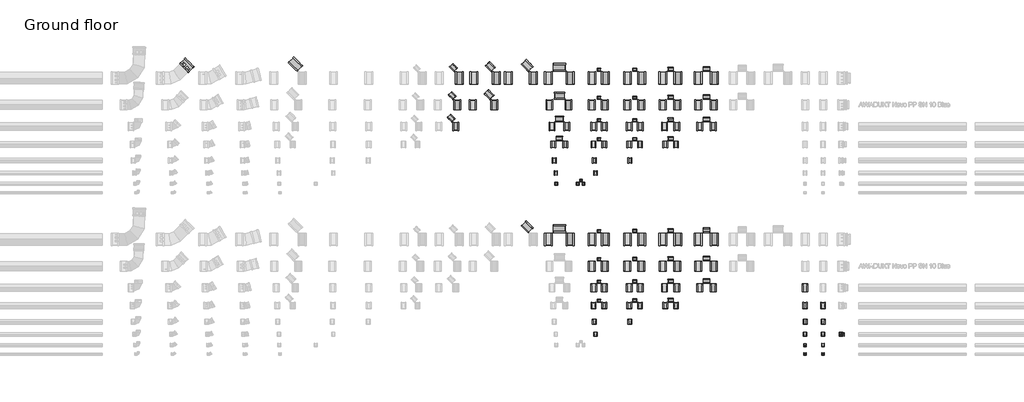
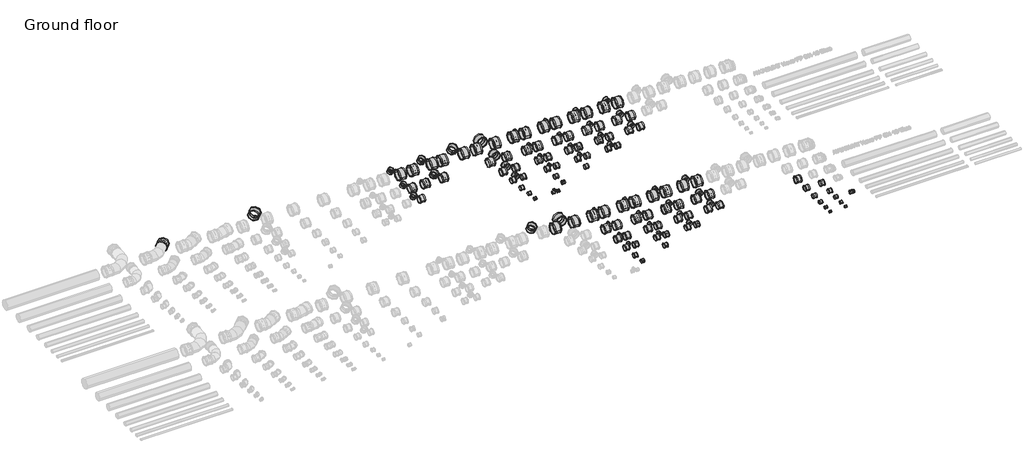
# One storey, part 4 of 14: 148 pipe fittings.
"""IFC4 building model written with IfcOpenShell, lengths in millimetres."""

from ifc_helpers import new_model, si_unit, origin, place, context, project, spatial, transform, mapped, element, save
from components import pipe_fitting_e5a81f0f, pipe_fitting_366f8f33, pipe_fitting_3dc9645f, pipe_fitting_b5a722ff, pipe_fitting_a818c1c7, pipe_fitting_9bc79c39, pipe_fitting_2c23b5e5, pipe_fitting_0ebad727, blue_01f449b1, blue_9a590d53, blue_d79e372c, blue_eca1b971, blue_b5fe305e, blue_81cd2d72, blue_271a95f6

model = new_model("IFC4")

# Units and contexts
model_context = context("Model", 3, world=origin())
ifc_project = project(units=[si_unit("LENGTHUNIT", "METRE", prefix="MILLI")], contexts=[model_context])

# Site, building, storey
site = spatial("IfcSite", under=ifc_project)
building = spatial("IfcBuilding", under=site)
storey = spatial("IfcBuildingStorey", under=building, Name="Ground floor", Elevation=0.0)

# Pipe fittings
placement = place(None, origin())
pipe_fitting_shape = pipe_fitting_e5a81f0f(model_context)
element("IfcPipeFitting", 1, ObjectType="AWADUKT PP Union DSM : Orange No PID", at=placement, inside=storey, context=model_context, shape_type="MappedRepresentation", body=[
    mapped(pipe_fitting_shape, transform((48463.1549417, 13163.1549417, 0.0), x_axis=(0.7071067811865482, 0.7071067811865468, 0.0), y_axis=(-0.7071067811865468, 0.7071067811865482, 0.0), z_axis=(0.0, 0.0, 1.0))),
])
element("IfcPipeFitting", 2, ObjectType="AWADUKT PP Union DSM : Orange No PID", at=placement, inside=storey, context=model_context, shape_type="MappedRepresentation", body=[
    mapped(pipe_fitting_shape, transform((48516.1879503, 14416.1879503, 0.0), x_axis=(0.7071067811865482, 0.7071067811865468, 0.0), y_axis=(-0.7071067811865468, 0.7071067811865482, 0.0), z_axis=(0.0, 0.0, 1.0))),
])
element("IfcPipeFitting", 3, ObjectType="AWADUKT PP Union DSM : Orange No PID", at=placement, inside=storey, context=model_context, shape_type="MappedRepresentation", body=[
    mapped(pipe_fitting_shape, transform((48579.8275606, 15979.8275606, 0.0), x_axis=(0.7071067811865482, 0.7071067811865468, 0.0), y_axis=(-0.7071067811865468, 0.7071067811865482, 0.0), z_axis=(0.0, 0.0, 1.0))),
])
element("IfcPipeFitting", 4, ObjectType="AWADUKT PP Union DSM : Orange No PID", at=placement, inside=storey, context=model_context, shape_type="MappedRepresentation", body=[
    mapped(pipe_fitting_shape, transform((54151.0, 11700.0, 0.0), x_axis=(1.0, 0.0, 0.0), y_axis=(0.0, 1.0, 0.0), z_axis=(0.0, 0.0, 1.0))),
])
element("IfcPipeFitting", 5, ObjectType="AWADUKT PP Union DSM : Orange No PID", at=placement, inside=storey, context=model_context, shape_type="MappedRepresentation", body=[
    mapped(pipe_fitting_shape, transform((56394.0, 11700.0, 0.0), x_axis=(1.0, 0.0, 0.0), y_axis=(0.0, 1.0, 0.0), z_axis=(0.0, 0.0, 1.0))),
])
element("IfcPipeFitting", 6, ObjectType="AWADUKT PP Union DSM : Orange No PID", at=placement, inside=storey, context=model_context, shape_type="MappedRepresentation", body=[
    mapped(pipe_fitting_shape, transform((58394.0, 11700.0, 0.0), x_axis=(1.0, 0.0, 0.0), y_axis=(0.0, 1.0, 0.0), z_axis=(0.0, 0.0, 1.0))),
])
element("IfcPipeFitting", 7, ObjectType="AWADUKT PP Union DSM : Orange No PID", at=placement, inside=storey, context=model_context, shape_type="MappedRepresentation", body=[
    mapped(pipe_fitting_shape, transform((60394.0, 11700.0, 0.0), x_axis=(1.0, 0.0, 0.0), y_axis=(0.0, 1.0, 0.0), z_axis=(0.0, 0.0, 1.0))),
])
element("IfcPipeFitting", 8, ObjectType="AWADUKT PP Union DSM : Orange No PID", at=placement, inside=storey, context=model_context, shape_type="MappedRepresentation", body=[
    mapped(pipe_fitting_shape, transform((54832.0, 11700.0, 0.0), x_axis=(-1.0, 0.0, 0.0), y_axis=(0.0, -1.0, 0.0), z_axis=(0.0, 0.0, 1.0))),
])
element("IfcPipeFitting", 9, ObjectType="AWADUKT PP Union DSM : Orange No PID", at=placement, inside=storey, context=model_context, shape_type="MappedRepresentation", body=[
    mapped(pipe_fitting_shape, transform((54500.0, 12025.0, 0.0), x_axis=(0.0, 1.0, 0.0), y_axis=(-1.0, 0.0, 0.0), z_axis=(0.0, 0.0, 1.0))),
])
element("IfcPipeFitting", 10, ObjectType="AWADUKT PP Union DSM : Orange No PID", at=placement, inside=storey, context=model_context, shape_type="MappedRepresentation", body=[
    mapped(pipe_fitting_shape, transform((57000.0, 11700.0, 0.0), x_axis=(-1.0, 0.0, 0.0), y_axis=(0.0, -1.0, 0.0), z_axis=(0.0, 0.0, 1.0))),
])
element("IfcPipeFitting", 11, ObjectType="AWADUKT PP Union DSM : Orange No PID", at=placement, inside=storey, context=model_context, shape_type="MappedRepresentation", body=[
    mapped(pipe_fitting_shape, transform((59000.0, 11700.0, 0.0), x_axis=(-1.0, 0.0, 0.0), y_axis=(0.0, -1.0, 0.0), z_axis=(0.0, 0.0, 1.0))),
])
element("IfcPipeFitting", 12, ObjectType="AWADUKT PP Union DSM : Orange No PID", at=placement, inside=storey, context=model_context, shape_type="MappedRepresentation", body=[
    mapped(pipe_fitting_shape, transform((61000.0, 11700.0, 0.0), x_axis=(-1.0, 0.0, 0.0), y_axis=(0.0, -1.0, 0.0), z_axis=(0.0, 0.0, 1.0))),
])
element("IfcPipeFitting", 13, ObjectType="AWADUKT PP Union DSM : Orange No PID", at=placement, inside=storey, context=model_context, shape_type="MappedRepresentation", body=[
    mapped(pipe_fitting_shape, transform((62700.0, 13078.0, 0.0), x_axis=(0.0, 1.0, 0.0), y_axis=(-1.0, 0.0, 0.0), z_axis=(0.0, 0.0, 1.0))),
])
element("IfcPipeFitting", 14, ObjectType="AWADUKT PP Union DSM : Orange No PID", at=placement, inside=storey, context=model_context, shape_type="MappedRepresentation", body=[
    mapped(pipe_fitting_shape, transform((62700.0, 14338.0, 0.0), x_axis=(0.0, 1.0, 0.0), y_axis=(-1.0, 0.0, 0.0), z_axis=(0.0, 0.0, 1.0))),
])
element("IfcPipeFitting", 15, ObjectType="AWADUKT PP Union DSM : Orange No PID", at=placement, inside=storey, context=model_context, shape_type="MappedRepresentation", body=[
    mapped(pipe_fitting_shape, transform((62700.0, 15903.0, 0.0), x_axis=(0.0, 1.0, 0.0), y_axis=(-1.0, 0.0, 0.0), z_axis=(0.0, 0.0, 1.0))),
])
pipe_fitting_2_shape = pipe_fitting_366f8f33(model_context)
element("IfcPipeFitting", 16, ObjectType="AWADUKT PP Union DSM : Blue No PID", at=placement, inside=storey, context=model_context, shape_type="MappedRepresentation", body=[
    mapped(pipe_fitting_2_shape, transform((53874.0, 6400.0, 0.0), x_axis=(1.0, 0.0, 0.0), y_axis=(0.0, 1.0, 0.0), z_axis=(0.0, 0.0, 1.0))),
])
element("IfcPipeFitting", 17, ObjectType="AWADUKT PP Union DSM : Blue No PID", at=placement, inside=storey, context=model_context, shape_type="MappedRepresentation", body=[
    mapped(pipe_fitting_2_shape, transform((56309.0, 6400.0, 0.0), x_axis=(1.0, 0.0, 0.0), y_axis=(0.0, 1.0, 0.0), z_axis=(0.0, 0.0, 1.0))),
])
element("IfcPipeFitting", 18, ObjectType="AWADUKT PP Union DSM : Blue No PID", at=placement, inside=storey, context=model_context, shape_type="MappedRepresentation", body=[
    mapped(pipe_fitting_2_shape, transform((58289.0, 6400.0, 0.0), x_axis=(1.0, 0.0, 0.0), y_axis=(0.0, 1.0, 0.0), z_axis=(0.0, 0.0, 1.0))),
])
element("IfcPipeFitting", 19, ObjectType="AWADUKT PP Union DSM : Blue No PID", at=placement, inside=storey, context=model_context, shape_type="MappedRepresentation", body=[
    mapped(pipe_fitting_2_shape, transform((60264.0, 6400.0, 0.0), x_axis=(1.0, 0.0, 0.0), y_axis=(0.0, 1.0, 0.0), z_axis=(0.0, 0.0, 1.0))),
])
element("IfcPipeFitting", 20, ObjectType="AWADUKT PP Union DSM : Blue No PID", at=placement, inside=storey, context=model_context, shape_type="MappedRepresentation", body=[
    mapped(pipe_fitting_2_shape, transform((62232.0, 6400.0, 0.0), x_axis=(1.0, 0.0, 0.0), y_axis=(0.0, 1.0, 0.0), z_axis=(0.0, 0.0, 1.0))),
])
element("IfcPipeFitting", 21, ObjectType="AWADUKT PP Union DSM : Blue No PID", at=placement, inside=storey, context=model_context, shape_type="MappedRepresentation", body=[
    mapped(pipe_fitting_2_shape, transform((55101.0, 6400.0, 0.0), x_axis=(-1.0, 0.0, 0.0), y_axis=(0.0, -1.0, 0.0), z_axis=(0.0, 0.0, 1.0))),
])
element("IfcPipeFitting", 22, ObjectType="AWADUKT PP Union DSM : Blue No PID", at=placement, inside=storey, context=model_context, shape_type="MappedRepresentation", body=[
    mapped(pipe_fitting_2_shape, transform((54500.0, 6990.0, 0.0), x_axis=(0.0, 1.0, 0.0), y_axis=(-1.0, 0.0, 0.0), z_axis=(0.0, 0.0, 1.0))),
])
element("IfcPipeFitting", 23, ObjectType="AWADUKT PP Union DSM : Blue No PID", at=placement, inside=storey, context=model_context, shape_type="MappedRepresentation", body=[
    mapped(pipe_fitting_2_shape, transform((57066.0, 6400.0, 0.0), x_axis=(-1.0, 0.0, 0.0), y_axis=(0.0, -1.0, 0.0), z_axis=(0.0, 0.0, 1.0))),
])
element("IfcPipeFitting", 24, ObjectType="AWADUKT PP Union DSM : Blue No PID", at=placement, inside=storey, context=model_context, shape_type="MappedRepresentation", body=[
    mapped(pipe_fitting_2_shape, transform((59086.0, 6400.0, 0.0), x_axis=(-1.0, 0.0, 0.0), y_axis=(0.0, -1.0, 0.0), z_axis=(0.0, 0.0, 1.0))),
])
element("IfcPipeFitting", 25, ObjectType="AWADUKT PP Union DSM : Blue No PID", at=placement, inside=storey, context=model_context, shape_type="MappedRepresentation", body=[
    mapped(pipe_fitting_2_shape, transform((61111.0, 6400.0, 0.0), x_axis=(-1.0, 0.0, 0.0), y_axis=(0.0, -1.0, 0.0), z_axis=(0.0, 0.0, 1.0))),
])
element("IfcPipeFitting", 26, ObjectType="AWADUKT PP Union DSM : Blue No PID", at=placement, inside=storey, context=model_context, shape_type="MappedRepresentation", body=[
    mapped(pipe_fitting_2_shape, transform((63144.0, 6400.0, 0.0), x_axis=(-1.0, 0.0, 0.0), y_axis=(0.0, -1.0, 0.0), z_axis=(0.0, 0.0, 1.0))),
])
pipe_fitting_3_shape = pipe_fitting_3dc9645f(model_context)
element("IfcPipeFitting", 27, ObjectType="AWADUKT PP Union DSM : Blue No PID", at=placement, inside=storey, context=model_context, shape_type="MappedRepresentation", body=[
    mapped(pipe_fitting_3_shape, transform((56700.0, 2982.0, 0.0), x_axis=(0.0, 1.0, 0.0), y_axis=(-1.0, 0.0, 0.0), z_axis=(0.0, 0.0, 1.0))),
])
element("IfcPipeFitting", 28, ObjectType="AWADUKT PP Union DSM : Blue No PID", at=placement, inside=storey, context=model_context, shape_type="MappedRepresentation", body=[
    mapped(pipe_fitting_3_shape, transform((56700.0, 4035.0, 0.0), x_axis=(0.0, 1.0, 0.0), y_axis=(-1.0, 0.0, 0.0), z_axis=(0.0, 0.0, 1.0))),
])
element("IfcPipeFitting", 29, ObjectType="AWADUKT PP Union DSM : Blue No PID", at=placement, inside=storey, context=model_context, shape_type="MappedRepresentation", body=[
    mapped(pipe_fitting_3_shape, transform((56700.0, 5295.0, 0.0), x_axis=(0.0, 1.0, 0.0), y_axis=(-1.0, 0.0, 0.0), z_axis=(0.0, 0.0, 1.0))),
])
element("IfcPipeFitting", 30, ObjectType="AWADUKT PP Union DSM : Blue No PID", at=placement, inside=storey, context=model_context, shape_type="MappedRepresentation", body=[
    mapped(pipe_fitting_3_shape, transform((56700.0, 6860.0, 0.0), x_axis=(0.0, 1.0, 0.0), y_axis=(-1.0, 0.0, 0.0), z_axis=(0.0, 0.0, 1.0))),
])
pipe_fitting_4_shape = pipe_fitting_b5a722ff(model_context)
element("IfcPipeFitting", 31, ObjectType="AWADUKT PP Union DSM : Blue No PID", at=placement, inside=storey, context=model_context, shape_type="MappedRepresentation", body=[
    mapped(pipe_fitting_4_shape, transform((56516.0, 1100.0, 0.0), x_axis=(1.0, 0.0, 0.0), y_axis=(0.0, 1.0, 0.0), z_axis=(0.0, 0.0, 1.0))),
])
element("IfcPipeFitting", 32, ObjectType="AWADUKT PP Union DSM : Blue No PID", at=placement, inside=storey, context=model_context, shape_type="MappedRepresentation", body=[
    mapped(pipe_fitting_4_shape, transform((58700.0, 2988.0, 0.0), x_axis=(0.0, 1.0, 0.0), y_axis=(-1.0, 0.0, 0.0), z_axis=(0.0, 0.0, 1.0))),
])
element("IfcPipeFitting", 33, ObjectType="AWADUKT PP Union DSM : Blue No PID", at=placement, inside=storey, context=model_context, shape_type="MappedRepresentation", body=[
    mapped(pipe_fitting_4_shape, transform((58700.0, 4040.0, 0.0), x_axis=(0.0, 1.0, 0.0), y_axis=(-1.0, 0.0, 0.0), z_axis=(0.0, 0.0, 1.0))),
])
element("IfcPipeFitting", 34, ObjectType="AWADUKT PP Union DSM : Blue No PID", at=placement, inside=storey, context=model_context, shape_type="MappedRepresentation", body=[
    mapped(pipe_fitting_4_shape, transform((58700.0, 5300.0, 0.0), x_axis=(0.0, 1.0, 0.0), y_axis=(-1.0, 0.0, 0.0), z_axis=(0.0, 0.0, 1.0))),
])
element("IfcPipeFitting", 35, ObjectType="AWADUKT PP Union DSM : Blue No PID", at=placement, inside=storey, context=model_context, shape_type="MappedRepresentation", body=[
    mapped(pipe_fitting_4_shape, transform((58700.0, 6865.0, 0.0), x_axis=(0.0, 1.0, 0.0), y_axis=(-1.0, 0.0, 0.0), z_axis=(0.0, 0.0, 1.0))),
])
element("IfcPipeFitting", 36, ObjectType="AWADUKT PP Union DSM : Blue No PID", at=placement, inside=storey, context=model_context, shape_type="MappedRepresentation", body=[
    mapped(pipe_fitting_4_shape, transform((70200.0, 1100.0, 0.0), x_axis=(1.0, 0.0, 0.0), y_axis=(0.0, 1.0, 0.0), z_axis=(0.0, 0.0, 1.0))),
])
pipe_fitting_5_shape = pipe_fitting_a818c1c7(model_context)
element("IfcPipeFitting", 37, ObjectType="AWADUKT PP Union DSM : Blue No PID", at=placement, inside=storey, context=model_context, shape_type="MappedRepresentation", body=[
    mapped(pipe_fitting_5_shape, transform((56449.0, 1800.0, 0.0), x_axis=(1.0, 0.0, 0.0), y_axis=(0.0, 1.0, 0.0), z_axis=(0.0, 0.0, 1.0))),
])
element("IfcPipeFitting", 38, ObjectType="AWADUKT PP Union DSM : Blue No PID", at=placement, inside=storey, context=model_context, shape_type="MappedRepresentation", body=[
    mapped(pipe_fitting_5_shape, transform((58429.0, 1800.0, 0.0), x_axis=(1.0, 0.0, 0.0), y_axis=(0.0, 1.0, 0.0), z_axis=(0.0, 0.0, 1.0))),
])
element("IfcPipeFitting", 39, ObjectType="AWADUKT PP Union DSM : Blue No PID", at=placement, inside=storey, context=model_context, shape_type="MappedRepresentation", body=[
    mapped(pipe_fitting_5_shape, transform((60700.0, 3007.0, 0.0), x_axis=(0.0, 1.0, 0.0), y_axis=(-1.0, 0.0, 0.0), z_axis=(0.0, 0.0, 1.0))),
])
element("IfcPipeFitting", 40, ObjectType="AWADUKT PP Union DSM : Blue No PID", at=placement, inside=storey, context=model_context, shape_type="MappedRepresentation", body=[
    mapped(pipe_fitting_5_shape, transform((60700.0, 4060.0, 0.0), x_axis=(0.0, 1.0, 0.0), y_axis=(-1.0, 0.0, 0.0), z_axis=(0.0, 0.0, 1.0))),
])
element("IfcPipeFitting", 41, ObjectType="AWADUKT PP Union DSM : Blue No PID", at=placement, inside=storey, context=model_context, shape_type="MappedRepresentation", body=[
    mapped(pipe_fitting_5_shape, transform((60700.0, 5320.0, 0.0), x_axis=(0.0, 1.0, 0.0), y_axis=(-1.0, 0.0, 0.0), z_axis=(0.0, 0.0, 1.0))),
])
element("IfcPipeFitting", 42, ObjectType="AWADUKT PP Union DSM : Blue No PID", at=placement, inside=storey, context=model_context, shape_type="MappedRepresentation", body=[
    mapped(pipe_fitting_5_shape, transform((60700.0, 6885.0, 0.0), x_axis=(0.0, 1.0, 0.0), y_axis=(-1.0, 0.0, 0.0), z_axis=(0.0, 0.0, 1.0))),
])
element("IfcPipeFitting", 43, ObjectType="AWADUKT PP Union DSM : Blue No PID", at=placement, inside=storey, context=model_context, shape_type="MappedRepresentation", body=[
    mapped(pipe_fitting_shape, transform((56394.0, 2700.0, 0.0), x_axis=(1.0, 0.0, 0.0), y_axis=(0.0, 1.0, 0.0), z_axis=(0.0, 0.0, 1.0))),
])
element("IfcPipeFitting", 44, ObjectType="AWADUKT PP Union DSM : Blue No PID", at=placement, inside=storey, context=model_context, shape_type="MappedRepresentation", body=[
    mapped(pipe_fitting_shape, transform((58394.0, 2700.0, 0.0), x_axis=(1.0, 0.0, 0.0), y_axis=(0.0, 1.0, 0.0), z_axis=(0.0, 0.0, 1.0))),
])
element("IfcPipeFitting", 45, ObjectType="AWADUKT PP Union DSM : Blue No PID", at=placement, inside=storey, context=model_context, shape_type="MappedRepresentation", body=[
    mapped(pipe_fitting_shape, transform((60394.0, 2700.0, 0.0), x_axis=(1.0, 0.0, 0.0), y_axis=(0.0, 1.0, 0.0), z_axis=(0.0, 0.0, 1.0))),
])
element("IfcPipeFitting", 46, ObjectType="AWADUKT PP Union DSM : Blue No PID", at=placement, inside=storey, context=model_context, shape_type="MappedRepresentation", body=[
    mapped(pipe_fitting_shape, transform((57000.0, 2700.0, 0.0), x_axis=(-1.0, 0.0, 0.0), y_axis=(0.0, -1.0, 0.0), z_axis=(0.0, 0.0, 1.0))),
])
element("IfcPipeFitting", 47, ObjectType="AWADUKT PP Union DSM : Blue No PID", at=placement, inside=storey, context=model_context, shape_type="MappedRepresentation", body=[
    mapped(pipe_fitting_shape, transform((59000.0, 2700.0, 0.0), x_axis=(-1.0, 0.0, 0.0), y_axis=(0.0, -1.0, 0.0), z_axis=(0.0, 0.0, 1.0))),
])
element("IfcPipeFitting", 48, ObjectType="AWADUKT PP Union DSM : Blue No PID", at=placement, inside=storey, context=model_context, shape_type="MappedRepresentation", body=[
    mapped(pipe_fitting_shape, transform((61000.0, 2700.0, 0.0), x_axis=(-1.0, 0.0, 0.0), y_axis=(0.0, -1.0, 0.0), z_axis=(0.0, 0.0, 1.0))),
])
element("IfcPipeFitting", 49, ObjectType="AWADUKT PP Union DSM : Blue No PID", at=placement, inside=storey, context=model_context, shape_type="MappedRepresentation", body=[
    mapped(pipe_fitting_shape, transform((62700.0, 4078.0, 0.0), x_axis=(0.0, 1.0, 0.0), y_axis=(-1.0, 0.0, 0.0), z_axis=(0.0, 0.0, 1.0))),
])
element("IfcPipeFitting", 50, ObjectType="AWADUKT PP Union DSM : Blue No PID", at=placement, inside=storey, context=model_context, shape_type="MappedRepresentation", body=[
    mapped(pipe_fitting_shape, transform((62700.0, 5338.0, 0.0), x_axis=(0.0, 1.0, 0.0), y_axis=(-1.0, 0.0, 0.0), z_axis=(0.0, 0.0, 1.0))),
])
element("IfcPipeFitting", 51, ObjectType="AWADUKT PP Union DSM : Blue No PID", at=placement, inside=storey, context=model_context, shape_type="MappedRepresentation", body=[
    mapped(pipe_fitting_shape, transform((62700.0, 6903.0, 0.0), x_axis=(0.0, 1.0, 0.0), y_axis=(-1.0, 0.0, 0.0), z_axis=(0.0, 0.0, 1.0))),
])
pipe_fitting_6_shape = pipe_fitting_9bc79c39(model_context)
element("IfcPipeFitting", 52, ObjectType="AWADUKT PP Union DSM : Blue No PID", at=placement, inside=storey, context=model_context, shape_type="MappedRepresentation", body=[
    mapped(pipe_fitting_6_shape, transform((56401.0, 3700.0, 0.0), x_axis=(1.0, 0.0, 0.0), y_axis=(0.0, 1.0, 0.0), z_axis=(0.0, 0.0, 1.0))),
])
element("IfcPipeFitting", 53, ObjectType="AWADUKT PP Union DSM : Blue No PID", at=placement, inside=storey, context=model_context, shape_type="MappedRepresentation", body=[
    mapped(pipe_fitting_6_shape, transform((58381.0, 3700.0, 0.0), x_axis=(1.0, 0.0, 0.0), y_axis=(0.0, 1.0, 0.0), z_axis=(0.0, 0.0, 1.0))),
])
element("IfcPipeFitting", 54, ObjectType="AWADUKT PP Union DSM : Blue No PID", at=placement, inside=storey, context=model_context, shape_type="MappedRepresentation", body=[
    mapped(pipe_fitting_6_shape, transform((60356.0, 3700.0, 0.0), x_axis=(1.0, 0.0, 0.0), y_axis=(0.0, 1.0, 0.0), z_axis=(0.0, 0.0, 1.0))),
])
element("IfcPipeFitting", 55, ObjectType="AWADUKT PP Union DSM : Blue No PID", at=placement, inside=storey, context=model_context, shape_type="MappedRepresentation", body=[
    mapped(pipe_fitting_6_shape, transform((62330.0, 3700.0, 0.0), x_axis=(1.0, 0.0, 0.0), y_axis=(0.0, 1.0, 0.0), z_axis=(0.0, 0.0, 1.0))),
])
element("IfcPipeFitting", 56, ObjectType="AWADUKT PP Union DSM : Blue No PID", at=placement, inside=storey, context=model_context, shape_type="MappedRepresentation", body=[
    mapped(pipe_fitting_6_shape, transform((56999.0, 3700.0, 0.0), x_axis=(-1.0, 0.0, 0.0), y_axis=(0.0, -1.0, 0.0), z_axis=(0.0, 0.0, 1.0))),
])
element("IfcPipeFitting", 57, ObjectType="AWADUKT PP Union DSM : Blue No PID", at=placement, inside=storey, context=model_context, shape_type="MappedRepresentation", body=[
    mapped(pipe_fitting_6_shape, transform((59019.0, 3700.0, 0.0), x_axis=(-1.0, 0.0, 0.0), y_axis=(0.0, -1.0, 0.0), z_axis=(0.0, 0.0, 1.0))),
])
element("IfcPipeFitting", 58, ObjectType="AWADUKT PP Union DSM : Blue No PID", at=placement, inside=storey, context=model_context, shape_type="MappedRepresentation", body=[
    mapped(pipe_fitting_6_shape, transform((61044.0, 3700.0, 0.0), x_axis=(-1.0, 0.0, 0.0), y_axis=(0.0, -1.0, 0.0), z_axis=(0.0, 0.0, 1.0))),
])
element("IfcPipeFitting", 59, ObjectType="AWADUKT PP Union DSM : Blue No PID", at=placement, inside=storey, context=model_context, shape_type="MappedRepresentation", body=[
    mapped(pipe_fitting_6_shape, transform((63076.0, 3700.0, 0.0), x_axis=(-1.0, 0.0, 0.0), y_axis=(0.0, -1.0, 0.0), z_axis=(0.0, 0.0, 1.0))),
])
pipe_fitting_7_shape = pipe_fitting_2c23b5e5(model_context)
element("IfcPipeFitting", 60, ObjectType="AWADUKT PP Union DSM : Blue No PID", at=placement, inside=storey, context=model_context, shape_type="MappedRepresentation", body=[
    mapped(pipe_fitting_7_shape, transform((52696.5001795, 7096.5001795, 0.0), x_axis=(0.7071067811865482, 0.7071067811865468, 0.0), y_axis=(-0.7071067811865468, 0.7071067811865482, 0.0), z_axis=(0.0, 0.0, 1.0))),
])
element("IfcPipeFitting", 61, ObjectType="AWADUKT PP Union DSM : Blue No PID", at=placement, inside=storey, context=model_context, shape_type="MappedRepresentation", body=[
    mapped(pipe_fitting_7_shape, transform((56309.0, 4900.0, 0.0), x_axis=(1.0, 0.0, 0.0), y_axis=(0.0, 1.0, 0.0), z_axis=(0.0, 0.0, 1.0))),
])
element("IfcPipeFitting", 62, ObjectType="AWADUKT PP Union DSM : Blue No PID", at=placement, inside=storey, context=model_context, shape_type="MappedRepresentation", body=[
    mapped(pipe_fitting_7_shape, transform((58289.0, 4900.0, 0.0), x_axis=(1.0, 0.0, 0.0), y_axis=(0.0, 1.0, 0.0), z_axis=(0.0, 0.0, 1.0))),
])
element("IfcPipeFitting", 63, ObjectType="AWADUKT PP Union DSM : Blue No PID", at=placement, inside=storey, context=model_context, shape_type="MappedRepresentation", body=[
    mapped(pipe_fitting_7_shape, transform((60264.0, 4900.0, 0.0), x_axis=(1.0, 0.0, 0.0), y_axis=(0.0, 1.0, 0.0), z_axis=(0.0, 0.0, 1.0))),
])
element("IfcPipeFitting", 64, ObjectType="AWADUKT PP Union DSM : Blue No PID", at=placement, inside=storey, context=model_context, shape_type="MappedRepresentation", body=[
    mapped(pipe_fitting_7_shape, transform((62232.0, 4900.0, 0.0), x_axis=(1.0, 0.0, 0.0), y_axis=(0.0, 1.0, 0.0), z_axis=(0.0, 0.0, 1.0))),
])
element("IfcPipeFitting", 65, ObjectType="AWADUKT PP Union DSM : Blue No PID", at=placement, inside=storey, context=model_context, shape_type="MappedRepresentation", body=[
    mapped(pipe_fitting_7_shape, transform((57040.0, 4900.0, 0.0), x_axis=(-1.0, 0.0, 0.0), y_axis=(0.0, -1.0, 0.0), z_axis=(0.0, 0.0, 1.0))),
])
element("IfcPipeFitting", 66, ObjectType="AWADUKT PP Union DSM : Blue No PID", at=placement, inside=storey, context=model_context, shape_type="MappedRepresentation", body=[
    mapped(pipe_fitting_7_shape, transform((59060.0, 4900.0, 0.0), x_axis=(-1.0, 0.0, 0.0), y_axis=(0.0, -1.0, 0.0), z_axis=(0.0, 0.0, 1.0))),
])
element("IfcPipeFitting", 67, ObjectType="AWADUKT PP Union DSM : Blue No PID", at=placement, inside=storey, context=model_context, shape_type="MappedRepresentation", body=[
    mapped(pipe_fitting_7_shape, transform((61085.0, 4900.0, 0.0), x_axis=(-1.0, 0.0, 0.0), y_axis=(0.0, -1.0, 0.0), z_axis=(0.0, 0.0, 1.0))),
])
element("IfcPipeFitting", 68, ObjectType="AWADUKT PP Union DSM : Blue No PID", at=placement, inside=storey, context=model_context, shape_type="MappedRepresentation", body=[
    mapped(pipe_fitting_7_shape, transform((63118.0, 4900.0, 0.0), x_axis=(-1.0, 0.0, 0.0), y_axis=(0.0, -1.0, 0.0), z_axis=(0.0, 0.0, 1.0))),
])
pipe_fitting_8_shape = pipe_fitting_0ebad727(model_context)
element("IfcPipeFitting", 69, ObjectType="AWADUKT PP Union DSM : Orange No PID", at=placement, inside=storey, context=model_context, shape_type="MappedRepresentation", body=[
    mapped(pipe_fitting_8_shape, transform((55700.0, 9690.0, 0.0), x_axis=(0.0, 1.0, 0.0), y_axis=(-1.0, 0.0, 0.0), z_axis=(0.0, 0.0, 1.0))),
])
element("IfcPipeFitting", 70, ObjectType="AWADUKT PP Union DSM : Orange No PID", at=placement, inside=storey, context=model_context, shape_type="MappedRepresentation", body=[
    mapped(pipe_fitting_3_shape, transform((54326.0, 9500.0, 0.0), x_axis=(1.0, 0.0, 0.0), y_axis=(0.0, 1.0, 0.0), z_axis=(0.0, 0.0, 1.0))),
])
element("IfcPipeFitting", 71, ObjectType="AWADUKT PP Union DSM : Orange No PID", at=placement, inside=storey, context=model_context, shape_type="MappedRepresentation", body=[
    mapped(pipe_fitting_3_shape, transform((55524.0, 9500.0, 0.0), x_axis=(1.0, 0.0, 0.0), y_axis=(0.0, 1.0, 0.0), z_axis=(0.0, 0.0, 1.0))),
])
element("IfcPipeFitting", 72, ObjectType="AWADUKT PP Union DSM : Orange No PID", at=placement, inside=storey, context=model_context, shape_type="MappedRepresentation", body=[
    mapped(pipe_fitting_3_shape, transform((56700.0, 11982.0, 0.0), x_axis=(0.0, 1.0, 0.0), y_axis=(-1.0, 0.0, 0.0), z_axis=(0.0, 0.0, 1.0))),
])
element("IfcPipeFitting", 73, ObjectType="AWADUKT PP Union DSM : Orange No PID", at=placement, inside=storey, context=model_context, shape_type="MappedRepresentation", body=[
    mapped(pipe_fitting_3_shape, transform((56700.0, 13035.0, 0.0), x_axis=(0.0, 1.0, 0.0), y_axis=(-1.0, 0.0, 0.0), z_axis=(0.0, 0.0, 1.0))),
])
element("IfcPipeFitting", 74, ObjectType="AWADUKT PP Union DSM : Orange No PID", at=placement, inside=storey, context=model_context, shape_type="MappedRepresentation", body=[
    mapped(pipe_fitting_3_shape, transform((56700.0, 14295.0, 0.0), x_axis=(0.0, 1.0, 0.0), y_axis=(-1.0, 0.0, 0.0), z_axis=(0.0, 0.0, 1.0))),
])
element("IfcPipeFitting", 75, ObjectType="AWADUKT PP Union DSM : Orange No PID", at=placement, inside=storey, context=model_context, shape_type="MappedRepresentation", body=[
    mapped(pipe_fitting_3_shape, transform((56700.0, 15860.0, 0.0), x_axis=(0.0, 1.0, 0.0), y_axis=(-1.0, 0.0, 0.0), z_axis=(0.0, 0.0, 1.0))),
])
element("IfcPipeFitting", 76, ObjectType="AWADUKT PP Union DSM : Orange No PID", at=placement, inside=storey, context=model_context, shape_type="MappedRepresentation", body=[
    mapped(pipe_fitting_3_shape, transform((55839.0, 9500.0, 0.0), x_axis=(-1.0, 0.0, 0.0), y_axis=(0.0, -1.0, 0.0), z_axis=(0.0, 0.0, 1.0))),
])
element("IfcPipeFitting", 77, ObjectType="AWADUKT PP Union DSM : Orange No PID", at=placement, inside=storey, context=model_context, shape_type="MappedRepresentation", body=[
    mapped(pipe_fitting_4_shape, transform((54294.1, 10100.0, 0.0), x_axis=(1.0, 0.0, 0.0), y_axis=(0.0, 1.0, 0.0), z_axis=(0.0, 0.0, 1.0))),
])
element("IfcPipeFitting", 78, ObjectType="AWADUKT PP Union DSM : Orange No PID", at=placement, inside=storey, context=model_context, shape_type="MappedRepresentation", body=[
    mapped(pipe_fitting_4_shape, transform((56516.0, 10100.0, 0.0), x_axis=(1.0, 0.0, 0.0), y_axis=(0.0, 1.0, 0.0), z_axis=(0.0, 0.0, 1.0))),
])
element("IfcPipeFitting", 79, ObjectType="AWADUKT PP Union DSM : Orange No PID", at=placement, inside=storey, context=model_context, shape_type="MappedRepresentation", body=[
    mapped(pipe_fitting_4_shape, transform((58700.0, 11988.0, 0.0), x_axis=(0.0, 1.0, 0.0), y_axis=(-1.0, 0.0, 0.0), z_axis=(0.0, 0.0, 1.0))),
])
element("IfcPipeFitting", 80, ObjectType="AWADUKT PP Union DSM : Orange No PID", at=placement, inside=storey, context=model_context, shape_type="MappedRepresentation", body=[
    mapped(pipe_fitting_4_shape, transform((58700.0, 13040.0, 0.0), x_axis=(0.0, 1.0, 0.0), y_axis=(-1.0, 0.0, 0.0), z_axis=(0.0, 0.0, 1.0))),
])
element("IfcPipeFitting", 81, ObjectType="AWADUKT PP Union DSM : Orange No PID", at=placement, inside=storey, context=model_context, shape_type="MappedRepresentation", body=[
    mapped(pipe_fitting_4_shape, transform((58700.0, 14300.0, 0.0), x_axis=(0.0, 1.0, 0.0), y_axis=(-1.0, 0.0, 0.0), z_axis=(0.0, 0.0, 1.0))),
])
element("IfcPipeFitting", 82, ObjectType="AWADUKT PP Union DSM : Orange No PID", at=placement, inside=storey, context=model_context, shape_type="MappedRepresentation", body=[
    mapped(pipe_fitting_4_shape, transform((58700.0, 15865.0, 0.0), x_axis=(0.0, 1.0, 0.0), y_axis=(-1.0, 0.0, 0.0), z_axis=(0.0, 0.0, 1.0))),
])
element("IfcPipeFitting", 83, ObjectType="AWADUKT PP Union DSM : Orange No PID", at=placement, inside=storey, context=model_context, shape_type="MappedRepresentation", body=[
    mapped(pipe_fitting_5_shape, transform((54204.0, 10800.0, 0.0), x_axis=(1.0, 0.0, 0.0), y_axis=(0.0, 1.0, 0.0), z_axis=(0.0, 0.0, 1.0))),
])
element("IfcPipeFitting", 84, ObjectType="AWADUKT PP Union DSM : Orange No PID", at=placement, inside=storey, context=model_context, shape_type="MappedRepresentation", body=[
    mapped(pipe_fitting_5_shape, transform((56449.0, 10800.0, 0.0), x_axis=(1.0, 0.0, 0.0), y_axis=(0.0, 1.0, 0.0), z_axis=(0.0, 0.0, 1.0))),
])
element("IfcPipeFitting", 85, ObjectType="AWADUKT PP Union DSM : Orange No PID", at=placement, inside=storey, context=model_context, shape_type="MappedRepresentation", body=[
    mapped(pipe_fitting_5_shape, transform((58429.0, 10800.0, 0.0), x_axis=(1.0, 0.0, 0.0), y_axis=(0.0, 1.0, 0.0), z_axis=(0.0, 0.0, 1.0))),
])
element("IfcPipeFitting", 86, ObjectType="AWADUKT PP Union DSM : Orange No PID", at=placement, inside=storey, context=model_context, shape_type="MappedRepresentation", body=[
    mapped(pipe_fitting_5_shape, transform((60700.0, 12007.0, 0.0), x_axis=(0.0, 1.0, 0.0), y_axis=(-1.0, 0.0, 0.0), z_axis=(0.0, 0.0, 1.0))),
])
element("IfcPipeFitting", 87, ObjectType="AWADUKT PP Union DSM : Orange No PID", at=placement, inside=storey, context=model_context, shape_type="MappedRepresentation", body=[
    mapped(pipe_fitting_5_shape, transform((60700.0, 13060.0, 0.0), x_axis=(0.0, 1.0, 0.0), y_axis=(-1.0, 0.0, 0.0), z_axis=(0.0, 0.0, 1.0))),
])
element("IfcPipeFitting", 88, ObjectType="AWADUKT PP Union DSM : Orange No PID", at=placement, inside=storey, context=model_context, shape_type="MappedRepresentation", body=[
    mapped(pipe_fitting_5_shape, transform((60700.0, 14320.0, 0.0), x_axis=(0.0, 1.0, 0.0), y_axis=(-1.0, 0.0, 0.0), z_axis=(0.0, 0.0, 1.0))),
])
element("IfcPipeFitting", 89, ObjectType="AWADUKT PP Union DSM : Orange No PID", at=placement, inside=storey, context=model_context, shape_type="MappedRepresentation", body=[
    mapped(pipe_fitting_5_shape, transform((60700.0, 15885.0, 0.0), x_axis=(0.0, 1.0, 0.0), y_axis=(-1.0, 0.0, 0.0), z_axis=(0.0, 0.0, 1.0))),
])
element("IfcPipeFitting", 90, ObjectType="AWADUKT PP Union DSM : Orange No PID", at=placement, inside=storey, context=model_context, shape_type="MappedRepresentation", body=[
    mapped(pipe_fitting_6_shape, transform((48714.0, 12700.0, 0.0), x_axis=(-1.0, 0.0, 0.0), y_axis=(0.0, -1.0, 0.0), z_axis=(0.0, 0.0, 1.0))),
])
element("IfcPipeFitting", 91, ObjectType="AWADUKT PP Union DSM : Orange No PID", at=placement, inside=storey, context=model_context, shape_type="MappedRepresentation", body=[
    mapped(pipe_fitting_6_shape, transform((50572.7564928, 14472.7564928, 0.0), x_axis=(0.7071067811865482, 0.7071067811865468, 0.0), y_axis=(-0.7071067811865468, 0.7071067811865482, 0.0), z_axis=(0.0, 0.0, 1.0))),
])
element("IfcPipeFitting", 92, ObjectType="AWADUKT PP Union DSM : Orange No PID", at=placement, inside=storey, context=model_context, shape_type="MappedRepresentation", body=[
    mapped(pipe_fitting_6_shape, transform((50636.3961031, 16036.3961031, 0.0), x_axis=(0.7071067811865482, 0.7071067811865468, 0.0), y_axis=(-0.7071067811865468, 0.7071067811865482, 0.0), z_axis=(0.0, 0.0, 1.0))),
])
element("IfcPipeFitting", 93, ObjectType="AWADUKT PP Union DSM : Orange No PID", at=placement, inside=storey, context=model_context, shape_type="MappedRepresentation", body=[
    mapped(pipe_fitting_6_shape, transform((54081.0, 12700.0, 0.0), x_axis=(1.0, 0.0, 0.0), y_axis=(0.0, 1.0, 0.0), z_axis=(0.0, 0.0, 1.0))),
])
element("IfcPipeFitting", 94, ObjectType="AWADUKT PP Union DSM : Orange No PID", at=placement, inside=storey, context=model_context, shape_type="MappedRepresentation", body=[
    mapped(pipe_fitting_6_shape, transform((56401.0, 12700.0, 0.0), x_axis=(1.0, 0.0, 0.0), y_axis=(0.0, 1.0, 0.0), z_axis=(0.0, 0.0, 1.0))),
])
element("IfcPipeFitting", 95, ObjectType="AWADUKT PP Union DSM : Orange No PID", at=placement, inside=storey, context=model_context, shape_type="MappedRepresentation", body=[
    mapped(pipe_fitting_6_shape, transform((58381.0, 12700.0, 0.0), x_axis=(1.0, 0.0, 0.0), y_axis=(0.0, 1.0, 0.0), z_axis=(0.0, 0.0, 1.0))),
])
element("IfcPipeFitting", 96, ObjectType="AWADUKT PP Union DSM : Orange No PID", at=placement, inside=storey, context=model_context, shape_type="MappedRepresentation", body=[
    mapped(pipe_fitting_6_shape, transform((60356.0, 12700.0, 0.0), x_axis=(1.0, 0.0, 0.0), y_axis=(0.0, 1.0, 0.0), z_axis=(0.0, 0.0, 1.0))),
])
element("IfcPipeFitting", 97, ObjectType="AWADUKT PP Union DSM : Orange No PID", at=placement, inside=storey, context=model_context, shape_type="MappedRepresentation", body=[
    mapped(pipe_fitting_6_shape, transform((62330.0, 12700.0, 0.0), x_axis=(1.0, 0.0, 0.0), y_axis=(0.0, 1.0, 0.0), z_axis=(0.0, 0.0, 1.0))),
])
element("IfcPipeFitting", 98, ObjectType="AWADUKT PP Union DSM : Orange No PID", at=placement, inside=storey, context=model_context, shape_type="MappedRepresentation", body=[
    mapped(pipe_fitting_6_shape, transform((54919.0, 12700.0, 0.0), x_axis=(-1.0, 0.0, 0.0), y_axis=(0.0, -1.0, 0.0), z_axis=(0.0, 0.0, 1.0))),
])
element("IfcPipeFitting", 99, ObjectType="AWADUKT PP Union DSM : Orange No PID", at=placement, inside=storey, context=model_context, shape_type="MappedRepresentation", body=[
    mapped(pipe_fitting_6_shape, transform((54500.0, 13110.0, 0.0), x_axis=(0.0, 1.0, 0.0), y_axis=(-1.0, 0.0, 0.0), z_axis=(0.0, 0.0, 1.0))),
])
element("IfcPipeFitting", 100, ObjectType="AWADUKT PP Union DSM : Orange No PID", at=placement, inside=storey, context=model_context, shape_type="MappedRepresentation", body=[
    mapped(pipe_fitting_6_shape, transform((56999.0, 12700.0, 0.0), x_axis=(-1.0, 0.0, 0.0), y_axis=(0.0, -1.0, 0.0), z_axis=(0.0, 0.0, 1.0))),
])
element("IfcPipeFitting", 101, ObjectType="AWADUKT PP Union DSM : Orange No PID", at=placement, inside=storey, context=model_context, shape_type="MappedRepresentation", body=[
    mapped(pipe_fitting_6_shape, transform((59019.0, 12700.0, 0.0), x_axis=(-1.0, 0.0, 0.0), y_axis=(0.0, -1.0, 0.0), z_axis=(0.0, 0.0, 1.0))),
])
element("IfcPipeFitting", 102, ObjectType="AWADUKT PP Union DSM : Orange No PID", at=placement, inside=storey, context=model_context, shape_type="MappedRepresentation", body=[
    mapped(pipe_fitting_6_shape, transform((61044.0, 12700.0, 0.0), x_axis=(-1.0, 0.0, 0.0), y_axis=(0.0, -1.0, 0.0), z_axis=(0.0, 0.0, 1.0))),
])
element("IfcPipeFitting", 103, ObjectType="AWADUKT PP Union DSM : Orange No PID", at=placement, inside=storey, context=model_context, shape_type="MappedRepresentation", body=[
    mapped(pipe_fitting_6_shape, transform((63076.0, 12700.0, 0.0), x_axis=(-1.0, 0.0, 0.0), y_axis=(0.0, -1.0, 0.0), z_axis=(0.0, 0.0, 1.0))),
])
element("IfcPipeFitting", 104, ObjectType="AWADUKT PP Union DSM : Orange No PID", at=placement, inside=storey, context=model_context, shape_type="MappedRepresentation", body=[
    mapped(pipe_fitting_7_shape, transform((48801.0, 13900.0, 0.0), x_axis=(-1.0, 0.0, 0.0), y_axis=(0.0, -1.0, 0.0), z_axis=(0.0, 0.0, 1.0))),
])
element("IfcPipeFitting", 105, ObjectType="AWADUKT PP Union DSM : Orange No PID", at=placement, inside=storey, context=model_context, shape_type="MappedRepresentation", body=[
    mapped(pipe_fitting_7_shape, transform((49656.0, 13900.0, 0.0), x_axis=(1.0, 0.0, 0.0), y_axis=(0.0, 1.0, 0.0), z_axis=(0.0, 0.0, 1.0))),
])
element("IfcPipeFitting", 106, ObjectType="AWADUKT PP Union DSM : Orange No PID", at=placement, inside=storey, context=model_context, shape_type="MappedRepresentation", body=[
    mapped(pipe_fitting_7_shape, transform((50866.0, 13900.0, 0.0), x_axis=(-1.0, 0.0, 0.0), y_axis=(0.0, -1.0, 0.0), z_axis=(0.0, 0.0, 1.0))),
])
element("IfcPipeFitting", 107, ObjectType="AWADUKT PP Union DSM : Orange No PID", at=placement, inside=storey, context=model_context, shape_type="MappedRepresentation", body=[
    mapped(pipe_fitting_7_shape, transform((52696.5001795, 16096.5001795, 0.0), x_axis=(0.7071067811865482, 0.7071067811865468, 0.0), y_axis=(-0.7071067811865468, 0.7071067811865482, 0.0), z_axis=(0.0, 0.0, 1.0))),
])
element("IfcPipeFitting", 108, ObjectType="AWADUKT PP Union DSM : Orange No PID", at=placement, inside=storey, context=model_context, shape_type="MappedRepresentation", body=[
    mapped(pipe_fitting_7_shape, transform((53939.0, 13900.0, 0.0), x_axis=(1.0, 0.0, 0.0), y_axis=(0.0, 1.0, 0.0), z_axis=(0.0, 0.0, 1.0))),
])
element("IfcPipeFitting", 109, ObjectType="AWADUKT PP Union DSM : Orange No PID", at=placement, inside=storey, context=model_context, shape_type="MappedRepresentation", body=[
    mapped(pipe_fitting_7_shape, transform((56309.0, 13900.0, 0.0), x_axis=(1.0, 0.0, 0.0), y_axis=(0.0, 1.0, 0.0), z_axis=(0.0, 0.0, 1.0))),
])
element("IfcPipeFitting", 110, ObjectType="AWADUKT PP Union DSM : Orange No PID", at=placement, inside=storey, context=model_context, shape_type="MappedRepresentation", body=[
    mapped(pipe_fitting_7_shape, transform((58289.0, 13900.0, 0.0), x_axis=(1.0, 0.0, 0.0), y_axis=(0.0, 1.0, 0.0), z_axis=(0.0, 0.0, 1.0))),
])
element("IfcPipeFitting", 111, ObjectType="AWADUKT PP Union DSM : Orange No PID", at=placement, inside=storey, context=model_context, shape_type="MappedRepresentation", body=[
    mapped(pipe_fitting_7_shape, transform((60264.0, 13900.0, 0.0), x_axis=(1.0, 0.0, 0.0), y_axis=(0.0, 1.0, 0.0), z_axis=(0.0, 0.0, 1.0))),
])
element("IfcPipeFitting", 112, ObjectType="AWADUKT PP Union DSM : Orange No PID", at=placement, inside=storey, context=model_context, shape_type="MappedRepresentation", body=[
    mapped(pipe_fitting_7_shape, transform((62232.0, 13900.0, 0.0), x_axis=(1.0, 0.0, 0.0), y_axis=(0.0, 1.0, 0.0), z_axis=(0.0, 0.0, 1.0))),
])
element("IfcPipeFitting", 113, ObjectType="AWADUKT PP Union DSM : Orange No PID", at=placement, inside=storey, context=model_context, shape_type="MappedRepresentation", body=[
    mapped(pipe_fitting_7_shape, transform((55010.0, 13900.0, 0.0), x_axis=(-1.0, 0.0, 0.0), y_axis=(0.0, -1.0, 0.0), z_axis=(0.0, 0.0, 1.0))),
])
element("IfcPipeFitting", 114, ObjectType="AWADUKT PP Union DSM : Orange No PID", at=placement, inside=storey, context=model_context, shape_type="MappedRepresentation", body=[
    mapped(pipe_fitting_7_shape, transform((54500.0, 14399.0, 0.0), x_axis=(0.0, 1.0, 0.0), y_axis=(-1.0, 0.0, 0.0), z_axis=(0.0, 0.0, 1.0))),
])
element("IfcPipeFitting", 115, ObjectType="AWADUKT PP Union DSM : Orange No PID", at=placement, inside=storey, context=model_context, shape_type="MappedRepresentation", body=[
    mapped(pipe_fitting_7_shape, transform((57040.0, 13900.0, 0.0), x_axis=(-1.0, 0.0, 0.0), y_axis=(0.0, -1.0, 0.0), z_axis=(0.0, 0.0, 1.0))),
])
element("IfcPipeFitting", 116, ObjectType="AWADUKT PP Union DSM : Orange No PID", at=placement, inside=storey, context=model_context, shape_type="MappedRepresentation", body=[
    mapped(pipe_fitting_7_shape, transform((59060.0, 13900.0, 0.0), x_axis=(-1.0, 0.0, 0.0), y_axis=(0.0, -1.0, 0.0), z_axis=(0.0, 0.0, 1.0))),
])
element("IfcPipeFitting", 117, ObjectType="AWADUKT PP Union DSM : Orange No PID", at=placement, inside=storey, context=model_context, shape_type="MappedRepresentation", body=[
    mapped(pipe_fitting_7_shape, transform((61085.0, 13900.0, 0.0), x_axis=(-1.0, 0.0, 0.0), y_axis=(0.0, -1.0, 0.0), z_axis=(0.0, 0.0, 1.0))),
])
element("IfcPipeFitting", 118, ObjectType="AWADUKT PP Union DSM : Orange No PID", at=placement, inside=storey, context=model_context, shape_type="MappedRepresentation", body=[
    mapped(pipe_fitting_7_shape, transform((63118.0, 13900.0, 0.0), x_axis=(-1.0, 0.0, 0.0), y_axis=(0.0, -1.0, 0.0), z_axis=(0.0, 0.0, 1.0))),
])
element("IfcPipeFitting", 119, ObjectType="AWADUKT PP Union DSM : Orange No PID", at=placement, inside=storey, context=model_context, shape_type="MappedRepresentation", body=[
    mapped(pipe_fitting_2_shape, transform((33709.9352083, 16109.9352083, 0.0), x_axis=(0.7071067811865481, 0.707106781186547, 0.0), y_axis=(-0.707106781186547, 0.7071067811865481, 0.0), z_axis=(0.0, 0.0, 1.0))),
])
element("IfcPipeFitting", 120, ObjectType="AWADUKT PP Union DSM : Orange No PID", at=placement, inside=storey, context=model_context, shape_type="MappedRepresentation", body=[
    mapped(pipe_fitting_2_shape, transform((39767.2108576, 16167.2108576, 0.0), x_axis=(0.7071067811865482, 0.7071067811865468, 0.0), y_axis=(-0.7071067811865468, 0.7071067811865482, 0.0), z_axis=(0.0, 0.0, 1.0))),
])
element("IfcPipeFitting", 121, ObjectType="AWADUKT PP Union DSM : Orange No PID", at=placement, inside=storey, context=model_context, shape_type="MappedRepresentation", body=[
    mapped(pipe_fitting_2_shape, transform((48921.0, 15400.0, 0.0), x_axis=(-1.0, 0.0, 0.0), y_axis=(0.0, -1.0, 0.0), z_axis=(0.0, 0.0, 1.0))),
])
element("IfcPipeFitting", 122, ObjectType="AWADUKT PP Union DSM : Orange No PID", at=placement, inside=storey, context=model_context, shape_type="MappedRepresentation", body=[
    mapped(pipe_fitting_2_shape, transform((49721.0, 15400.0, 0.0), x_axis=(1.0, 0.0, 0.0), y_axis=(0.0, 1.0, 0.0), z_axis=(0.0, 0.0, 1.0))),
])
element("IfcPipeFitting", 123, ObjectType="AWADUKT PP Union DSM : Orange No PID", at=placement, inside=storey, context=model_context, shape_type="MappedRepresentation", body=[
    mapped(pipe_fitting_2_shape, transform((50987.0, 15400.0, 0.0), x_axis=(-1.0, 0.0, 0.0), y_axis=(0.0, -1.0, 0.0), z_axis=(0.0, 0.0, 1.0))),
])
element("IfcPipeFitting", 124, ObjectType="AWADUKT PP Union DSM : Orange No PID", at=placement, inside=storey, context=model_context, shape_type="MappedRepresentation", body=[
    mapped(pipe_fitting_2_shape, transform((51650.0, 15400.0, 0.0), x_axis=(1.0, 0.0, 0.0), y_axis=(0.0, 1.0, 0.0), z_axis=(0.0, 0.0, 1.0))),
])
element("IfcPipeFitting", 125, ObjectType="AWADUKT PP Union DSM : Orange No PID", at=placement, inside=storey, context=model_context, shape_type="MappedRepresentation", body=[
    mapped(pipe_fitting_2_shape, transform((53054.0, 15400.0, 0.0), x_axis=(-1.0, 0.0, 0.0), y_axis=(0.0, -1.0, 0.0), z_axis=(0.0, 0.0, 1.0))),
])
element("IfcPipeFitting", 126, ObjectType="AWADUKT PP Union DSM : Orange No PID", at=placement, inside=storey, context=model_context, shape_type="MappedRepresentation", body=[
    mapped(pipe_fitting_2_shape, transform((53874.0, 15400.0, 0.0), x_axis=(1.0, 0.0, 0.0), y_axis=(0.0, 1.0, 0.0), z_axis=(0.0, 0.0, 1.0))),
])
element("IfcPipeFitting", 127, ObjectType="AWADUKT PP Union DSM : Orange No PID", at=placement, inside=storey, context=model_context, shape_type="MappedRepresentation", body=[
    mapped(pipe_fitting_2_shape, transform((56309.0, 15400.0, 0.0), x_axis=(1.0, 0.0, 0.0), y_axis=(0.0, 1.0, 0.0), z_axis=(0.0, 0.0, 1.0))),
])
element("IfcPipeFitting", 128, ObjectType="AWADUKT PP Union DSM : Orange No PID", at=placement, inside=storey, context=model_context, shape_type="MappedRepresentation", body=[
    mapped(pipe_fitting_2_shape, transform((58289.0, 15400.0, 0.0), x_axis=(1.0, 0.0, 0.0), y_axis=(0.0, 1.0, 0.0), z_axis=(0.0, 0.0, 1.0))),
])
element("IfcPipeFitting", 129, ObjectType="AWADUKT PP Union DSM : Orange No PID", at=placement, inside=storey, context=model_context, shape_type="MappedRepresentation", body=[
    mapped(pipe_fitting_2_shape, transform((60264.0, 15400.0, 0.0), x_axis=(1.0, 0.0, 0.0), y_axis=(0.0, 1.0, 0.0), z_axis=(0.0, 0.0, 1.0))),
])
element("IfcPipeFitting", 130, ObjectType="AWADUKT PP Union DSM : Orange No PID", at=placement, inside=storey, context=model_context, shape_type="MappedRepresentation", body=[
    mapped(pipe_fitting_2_shape, transform((62232.0, 15400.0, 0.0), x_axis=(1.0, 0.0, 0.0), y_axis=(0.0, 1.0, 0.0), z_axis=(0.0, 0.0, 1.0))),
])
element("IfcPipeFitting", 131, ObjectType="AWADUKT PP Union DSM : Orange No PID", at=placement, inside=storey, context=model_context, shape_type="MappedRepresentation", body=[
    mapped(pipe_fitting_2_shape, transform((55101.0, 15400.0, 0.0), x_axis=(-1.0, 0.0, 0.0), y_axis=(0.0, -1.0, 0.0), z_axis=(0.0, 0.0, 1.0))),
])
element("IfcPipeFitting", 132, ObjectType="AWADUKT PP Union DSM : Orange No PID", at=placement, inside=storey, context=model_context, shape_type="MappedRepresentation", body=[
    mapped(pipe_fitting_2_shape, transform((54500.0, 15990.0, 0.0), x_axis=(0.0, 1.0, 0.0), y_axis=(-1.0, 0.0, 0.0), z_axis=(0.0, 0.0, 1.0))),
])
element("IfcPipeFitting", 133, ObjectType="AWADUKT PP Union DSM : Orange No PID", at=placement, inside=storey, context=model_context, shape_type="MappedRepresentation", body=[
    mapped(pipe_fitting_2_shape, transform((57066.0, 15400.0, 0.0), x_axis=(-1.0, 0.0, 0.0), y_axis=(0.0, -1.0, 0.0), z_axis=(0.0, 0.0, 1.0))),
])
element("IfcPipeFitting", 134, ObjectType="AWADUKT PP Union DSM : Orange No PID", at=placement, inside=storey, context=model_context, shape_type="MappedRepresentation", body=[
    mapped(pipe_fitting_2_shape, transform((59086.0, 15400.0, 0.0), x_axis=(-1.0, 0.0, 0.0), y_axis=(0.0, -1.0, 0.0), z_axis=(0.0, 0.0, 1.0))),
])
element("IfcPipeFitting", 135, ObjectType="AWADUKT PP Union DSM : Orange No PID", at=placement, inside=storey, context=model_context, shape_type="MappedRepresentation", body=[
    mapped(pipe_fitting_2_shape, transform((61111.0, 15400.0, 0.0), x_axis=(-1.0, 0.0, 0.0), y_axis=(0.0, -1.0, 0.0), z_axis=(0.0, 0.0, 1.0))),
])
element("IfcPipeFitting", 136, ObjectType="AWADUKT PP Union DSM : Orange No PID", at=placement, inside=storey, context=model_context, shape_type="MappedRepresentation", body=[
    mapped(pipe_fitting_2_shape, transform((63144.0, 15400.0, 0.0), x_axis=(-1.0, 0.0, 0.0), y_axis=(0.0, -1.0, 0.0), z_axis=(0.0, 0.0, 1.0))),
])
blue_shape = blue_01f449b1(model_context)
element("IfcPipeFitting", 137, ObjectType="AWADUKT PP Union USM : Blue", at=placement, inside=storey, context=model_context, shape_type="MappedRepresentation", body=[
    mapped(blue_shape, transform((68200.0, 0.0, 0.0), x_axis=(1.0, 0.0, 0.0), y_axis=(0.0, 1.0, 0.0), z_axis=(0.0, 0.0, 1.0))),
])
blue_2_shape = blue_9a590d53(model_context)
element("IfcPipeFitting", 138, ObjectType="AWADUKT PP Union USM : Blue", at=placement, inside=storey, context=model_context, shape_type="MappedRepresentation", body=[
    mapped(blue_2_shape, transform((68200.0, 500.0, 0.0), x_axis=(1.0, 0.0, 0.0), y_axis=(0.0, 1.0, 0.0), z_axis=(0.0, 0.0, 1.0))),
])
blue_3_shape = blue_d79e372c(model_context)
element("IfcPipeFitting", 139, ObjectType="AWADUKT PP Union USM : Blue", at=placement, inside=storey, context=model_context, shape_type="MappedRepresentation", body=[
    mapped(blue_3_shape, transform((68200.0, 1100.0, 0.0), x_axis=(1.0, 0.0, 0.0), y_axis=(0.0, 1.0, 0.0), z_axis=(0.0, 0.0, 1.0))),
])
blue_4_shape = blue_eca1b971(model_context)
element("IfcPipeFitting", 140, ObjectType="AWADUKT PP Union USM : Blue", at=placement, inside=storey, context=model_context, shape_type="MappedRepresentation", body=[
    mapped(blue_4_shape, transform((68200.0, 1800.0, 0.0), x_axis=(1.0, 0.0, 0.0), y_axis=(0.0, 1.0, 0.0), z_axis=(0.0, 0.0, 1.0))),
])
blue_5_shape = blue_b5fe305e(model_context)
element("IfcPipeFitting", 141, ObjectType="AWADUKT PP Union USM : Blue", at=placement, inside=storey, context=model_context, shape_type="MappedRepresentation", body=[
    mapped(blue_5_shape, transform((68200.0, 2700.0, 0.0), x_axis=(1.0, 0.0, 0.0), y_axis=(0.0, 1.0, 0.0), z_axis=(0.0, 0.0, 1.0))),
])
blue_6_shape = blue_81cd2d72(model_context)
element("IfcPipeFitting", 142, ObjectType="AWADUKT PP Union USM : Blue", at=placement, inside=storey, context=model_context, shape_type="MappedRepresentation", body=[
    mapped(blue_6_shape, transform((68200.0, 3700.0, 0.0), x_axis=(1.0, 0.0, 0.0), y_axis=(0.0, 1.0, 0.0), z_axis=(0.0, 0.0, 1.0))),
])
blue_7_shape = blue_271a95f6(model_context)
element("IfcPipeFitting", 143, ObjectType="AWADUKT PP Transition : Blue", at=placement, inside=storey, context=model_context, shape_type="MappedRepresentation", body=[
    mapped(blue_7_shape, transform((70200.0, 1100.0, 0.0), x_axis=(1.0, 0.0, 0.0), y_axis=(0.0, 1.0, 0.0), z_axis=(0.0, 0.0, 1.0))),
])
element("IfcPipeFitting", 144, ObjectType="AWADUKT PP Union DSM : Blue", at=placement, inside=storey, context=model_context, shape_type="MappedRepresentation", body=[
    mapped(pipe_fitting_8_shape, transform((69200.0, 0.0, 0.0), x_axis=(1.0, 0.0, 0.0), y_axis=(0.0, 1.0, 0.0), z_axis=(0.0, 0.0, 1.0))),
])
element("IfcPipeFitting", 145, ObjectType="AWADUKT PP Union DSM : Blue", at=placement, inside=storey, context=model_context, shape_type="MappedRepresentation", body=[
    mapped(pipe_fitting_4_shape, transform((69200.0, 1100.0, 0.0), x_axis=(1.0, 0.0, 0.0), y_axis=(0.0, 1.0, 0.0), z_axis=(0.0, 0.0, 1.0))),
])
element("IfcPipeFitting", 146, ObjectType="AWADUKT PP Union DSM : Blue", at=placement, inside=storey, context=model_context, shape_type="MappedRepresentation", body=[
    mapped(pipe_fitting_5_shape, transform((69200.0, 1800.0, 0.0), x_axis=(1.0, 0.0, 0.0), y_axis=(0.0, 1.0, 0.0), z_axis=(0.0, 0.0, 1.0))),
])
element("IfcPipeFitting", 147, ObjectType="AWADUKT PP Union DSM : Blue", at=placement, inside=storey, context=model_context, shape_type="MappedRepresentation", body=[
    mapped(pipe_fitting_shape, transform((69200.0, 2700.0, 0.0), x_axis=(1.0, 0.0, 0.0), y_axis=(0.0, 1.0, 0.0), z_axis=(0.0, 0.0, 1.0))),
])
element("IfcPipeFitting", 148, ObjectType="AWADUKT PP Union DSM : Blue", at=placement, inside=storey, context=model_context, shape_type="MappedRepresentation", body=[
    mapped(pipe_fitting_3_shape, transform((69200.0, 500.0, 0.0), x_axis=(1.0, 0.0, 0.0), y_axis=(0.0, 1.0, 0.0), z_axis=(0.0, 0.0, 1.0))),
])

save(model, "model.ifc")
